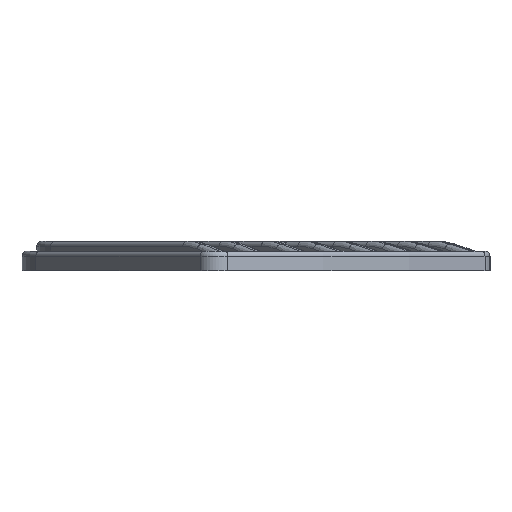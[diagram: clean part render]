
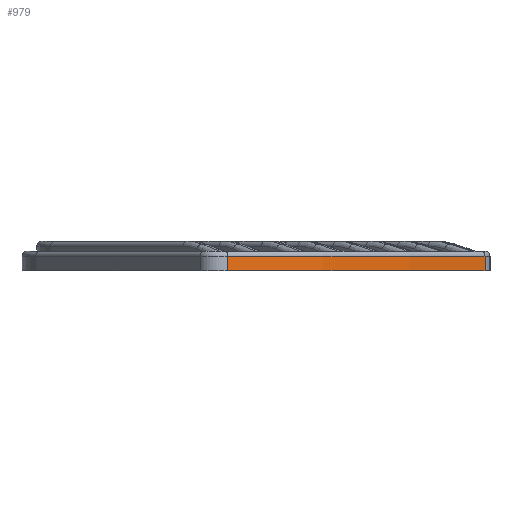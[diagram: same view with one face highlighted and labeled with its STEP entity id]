
A CAD part, front view. The second image highlights one B-rep face of the part: STEP entity #979.
In plain terms, the highlighted cylindrical face has radius 103.89 mm (diameter 207.78 mm), a partial arc.
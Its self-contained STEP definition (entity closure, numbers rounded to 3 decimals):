
#130=CYLINDRICAL_SURFACE('',#5310,103.89);
#375=FACE_OUTER_BOUND('',#1800,.T.);
#979=ADVANCED_FACE('',(#375),#130,.T.);
#1431=LINE('',#8869,#1609);
#1432=LINE('',#8873,#1610);
#1609=VECTOR('',#6021,1.);
#1610=VECTOR('',#6024,1.);
#1800=EDGE_LOOP('',(#2382,#2383,#2384,#2385));
#2382=ORIENTED_EDGE('',*,*,#4373,.T.);
#2383=ORIENTED_EDGE('',*,*,#4374,.T.);
#2384=ORIENTED_EDGE('',*,*,#4375,.T.);
#2385=ORIENTED_EDGE('',*,*,#4139,.F.);
#3667=VERTEX_POINT('',#6961);
#3668=VERTEX_POINT('',#6963);
#3878=VERTEX_POINT('',#8870);
#3879=VERTEX_POINT('',#8872);
#4139=EDGE_CURVE('',#3667,#3668,#4905,.T.);
#4373=EDGE_CURVE('',#3667,#3878,#1431,.T.);
#4374=EDGE_CURVE('',#3878,#3879,#4981,.T.);
#4375=EDGE_CURVE('',#3879,#3668,#1432,.T.);
#4905=CIRCLE('',#5210,103.89);
#4981=CIRCLE('',#5309,103.89);
#5210=AXIS2_PLACEMENT_3D('',#6962,#5744,#5745);
#5309=AXIS2_PLACEMENT_3D('',#8871,#6022,#6023);
#5310=AXIS2_PLACEMENT_3D('',#8874,#6025,#6026);
#5744=DIRECTION('',(0.,0.,-1.));
#5745=DIRECTION('',(-1.,0.,0.));
#6021=DIRECTION('',(0.,0.,1.));
#6022=DIRECTION('',(0.,0.,-1.));
#6023=DIRECTION('',(-1.,0.,0.));
#6024=DIRECTION('',(0.,0.,-1.));
#6025=DIRECTION('',(0.,0.,-1.));
#6026=DIRECTION('',(-1.,0.,0.));
#6961=CARTESIAN_POINT('',(180.42,6.512,38.));
#6962=CARTESIAN_POINT('',(96.726,68.062,38.));
#6963=CARTESIAN_POINT('',(154.253,-18.446,38.));
#8869=CARTESIAN_POINT('',(180.42,6.512,40.));
#8870=CARTESIAN_POINT('',(180.42,6.512,39.5));
#8871=CARTESIAN_POINT('',(96.726,68.062,39.5));
#8872=CARTESIAN_POINT('',(154.253,-18.446,39.5));
#8873=CARTESIAN_POINT('',(154.253,-18.446,40.));
#8874=CARTESIAN_POINT('',(96.726,68.062,40.));
